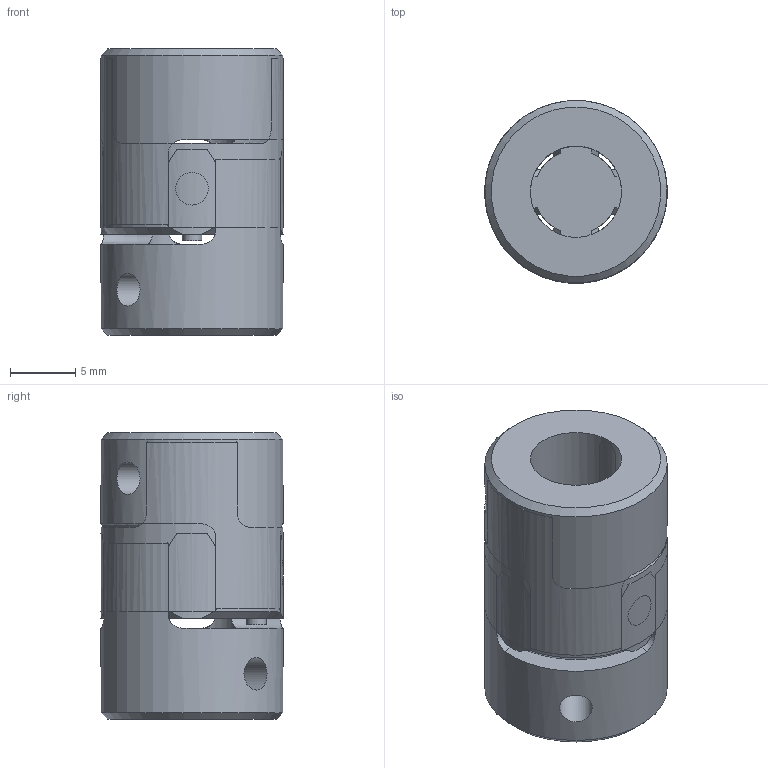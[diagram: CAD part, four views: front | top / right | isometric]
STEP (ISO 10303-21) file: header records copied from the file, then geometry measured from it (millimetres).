
FILE_DESCRIPTION( ( 'Unknown' ), '1' );
FILE_NAME( 'C:/Dokumente und Einstellungen/Sven/Desktop/homepage/cad - homepage/KBE1/KBE 1 - 7.stp', 'Unknown', ( 'Unknown' ), ( 'Unknown' ), 'XStep 1.0', 'Unknown', ' ' );
FILE_SCHEMA( ( 'automotive_design' ) );
Length unit declared in the file: millimetre
Products named in the file (3): Assem1; KBE 1 - 7_Nabe_0; ZK7_Standard_0
Bounding box: 14 x 14 x 22 mm (x, y, z)
Volume: 4154.1 mm3; surface area: 3777.2 mm2
Topology: 5 solids, 5 shells, 153 faces, 409 edges, 271 vertices
Faces by surface type: cylinder 61, cone 53, plane 27, torus 12
Full cylindrical faces by diameter (mm): 1.5 x8, 2.5 x3, 7 x3, 14 x3
Entity records: 2390 total; most frequent: CARTESIAN_POINT 607, DIRECTION 332, ORIENTED_EDGE 318, EDGE_CURVE 159, AXIS2_PLACEMENT_3D 154, VERTEX_POINT 109, CIRCLE 85, EDGE_LOOP 80
